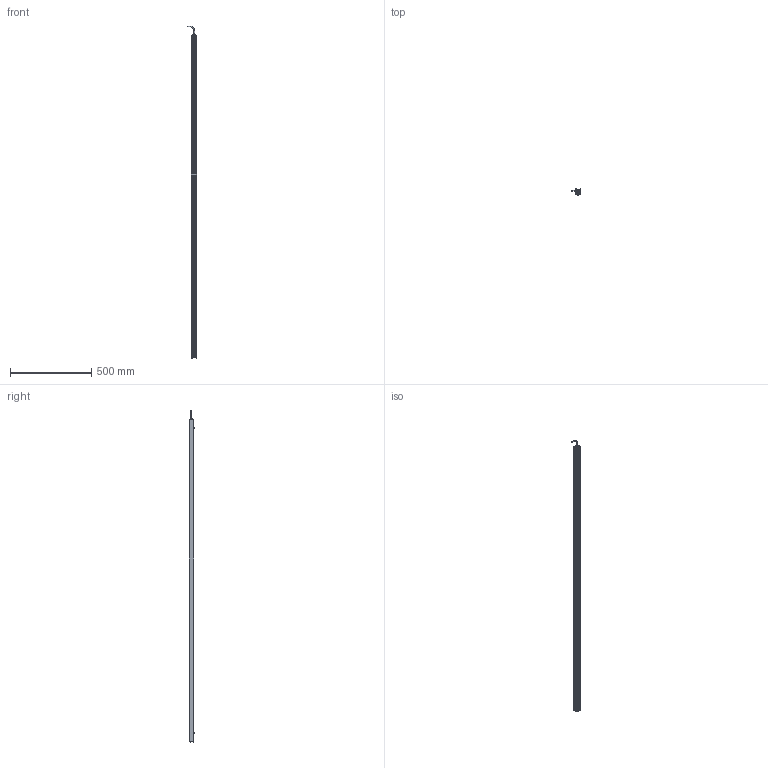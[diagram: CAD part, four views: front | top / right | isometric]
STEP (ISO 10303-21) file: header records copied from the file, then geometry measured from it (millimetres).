
FILE_DESCRIPTION (( 'STEP AP214' ), '1' );
FILE_NAME ('AL150XXXX_AL150456.stp', '2021-04-29T15:42:07', ( '' ), ( '' ), 'SwSTEP 2.0', 'SolidWorks 2018', '' );
FILE_SCHEMA (( 'AUTOMOTIVE_DESIGN' ));
Length unit declared in the file: inch
Products named in the file (12): CHM6x8_91460A312; 150-01-005-XXX_150-01-005-456; 150-03-006-XXXX_150-03-006-456; Part1^AL150XXXX; AL150XXXX_AL150456; 116-02-007; HN-M6_90592A016; 092408_TRUNCATED; 093145_93701A253; Part2^AL150XXXX; 116-02-006; 1157 (no strap)
Assembly tree (18 placements, depth 2):
  Part1^AL150XXXX
  AL150XXXX_AL150456
    150-01-005-XXX_150-01-005-456
    116-02-006
    093145_93701A253  x8
    HN-M6_90592A016  x2
    CHM6x8_91460A312  x2
    150-03-006-XXXX_150-03-006-456
    116-02-007
    1157 (no strap)
    092408_TRUNCATED
  Part2^AL150XXXX
Bounding box: 60.68 x 33.84 x 2045.13 mm (x, y, z)
Volume: 614934.6 mm3; surface area: 648552.3 mm2
Topology: 26 solids, 26 shells, 1306 faces, 3436 edges, 2127 vertices
Faces by surface type: cylinder 805, cone 249, plane 153, torus 59, bspline 32, sphere 8
Entity records: 18285 total; most frequent: CARTESIAN_POINT 6069, ORIENTED_EDGE 2496, DIRECTION 2311, EDGE_CURVE 1248, AXIS2_PLACEMENT_3D 881, VERTEX_POINT 800, LINE 549, VECTOR 549
